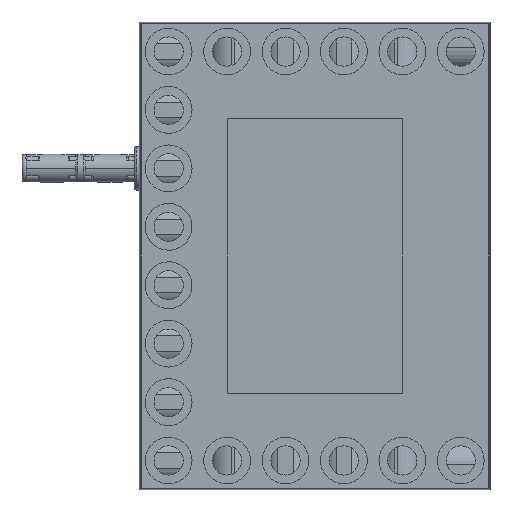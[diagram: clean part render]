
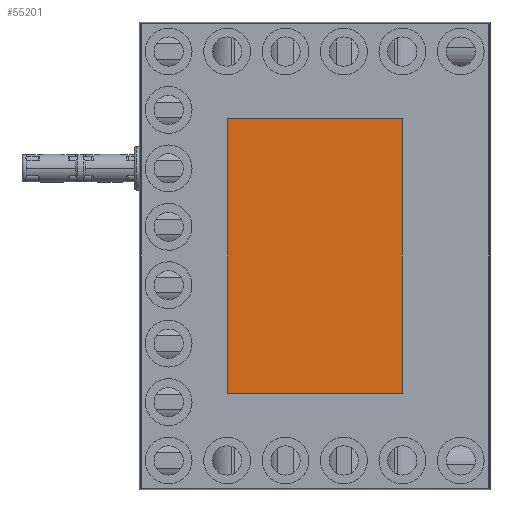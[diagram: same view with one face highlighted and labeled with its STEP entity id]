
A CAD part, front view. The second image highlights one B-rep face of the part: STEP entity #55201.
In plain terms, the highlighted planar face has unit normal (0, -1, 0).
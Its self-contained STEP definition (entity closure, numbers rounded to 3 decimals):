
#46338=DIRECTION('',(-1.,0.,0.));
#46339=VECTOR('',#46338,30.);
#46340=CARTESIAN_POINT('',(-75.,0.5,-23.5));
#46341=LINE('',#46340,#46339);
#46352=DIRECTION('',(0.,0.,1.));
#46353=VECTOR('',#46352,47.);
#46354=CARTESIAN_POINT('',(-105.,0.5,-23.5));
#46355=LINE('',#46354,#46353);
#46366=DIRECTION('',(1.,0.,0.));
#46367=VECTOR('',#46366,30.);
#46368=CARTESIAN_POINT('',(-105.,0.5,23.5));
#46369=LINE('',#46368,#46367);
#46380=DIRECTION('',(0.,0.,-1.));
#46381=VECTOR('',#46380,47.);
#46382=CARTESIAN_POINT('',(-75.,0.5,23.5));
#46383=LINE('',#46382,#46381);
#46754=CARTESIAN_POINT('',(-75.,0.5,-23.5));
#46755=VERTEX_POINT('',#46754);
#46756=CARTESIAN_POINT('',(-105.,0.5,-23.5));
#46757=VERTEX_POINT('',#46756);
#46758=CARTESIAN_POINT('',(-105.,0.5,23.5));
#46759=VERTEX_POINT('',#46758);
#46760=CARTESIAN_POINT('',(-75.,0.5,23.5));
#46761=VERTEX_POINT('',#46760);
#55190=CARTESIAN_POINT('',(-90.,0.5,0.));
#55191=DIRECTION('',(0.,1.,0.));
#55192=DIRECTION('',(0.,0.,1.));
#55193=AXIS2_PLACEMENT_3D('',#55190,#55191,#55192);
#55194=PLANE('',#55193);
#55195=ORIENTED_EDGE('',*,*,#55157,.T.);
#55196=ORIENTED_EDGE('',*,*,#55171,.T.);
#55197=ORIENTED_EDGE('',*,*,#55184,.T.);
#55198=ORIENTED_EDGE('',*,*,#55142,.T.);
#55199=EDGE_LOOP('',(#55195,#55196,#55197,#55198));
#55200=FACE_OUTER_BOUND('',#55199,.F.);
#55201=ADVANCED_FACE('',(#55200),#55194,.F.);
#55142=EDGE_CURVE('',#46755,#46757,#46341,.T.);
#55157=EDGE_CURVE('',#46757,#46759,#46355,.T.);
#55171=EDGE_CURVE('',#46759,#46761,#46369,.T.);
#55184=EDGE_CURVE('',#46761,#46755,#46383,.T.);
